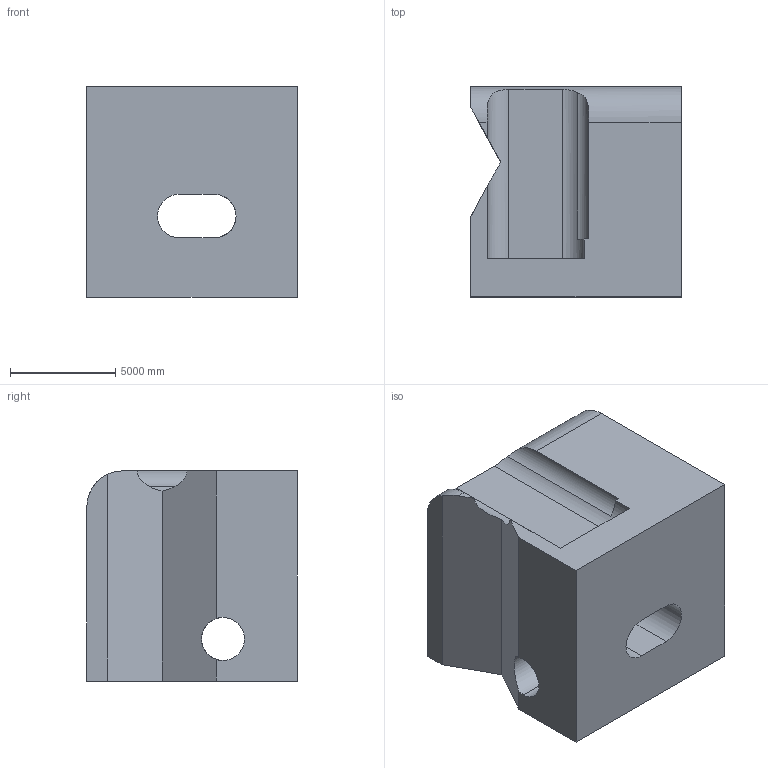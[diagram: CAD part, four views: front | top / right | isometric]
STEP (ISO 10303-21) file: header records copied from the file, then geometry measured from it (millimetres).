
FILE_DESCRIPTION (( 'STEP AP203' ), '1' );
FILE_NAME ('123.STEP', '2022-08-31T14:20:00', ( 'user' ), ( '' ), 'SwSTEP 2.0', 'SolidWorks 2021', '' );
FILE_SCHEMA (( 'CONFIG_CONTROL_DESIGN' ));
Length unit declared in the file: centimetre
Products named in the file (1): 123
Bounding box: 10000 x 10000 x 10000 mm (x, y, z)
Volume: 799085652406.5 mm3; surface area: 775354238.3 mm2
Topology: 1 solids, 1 shells, 32 faces, 99 edges, 66 vertices
Faces by surface type: plane 24, cylinder 8
Entity records: 1617 total; most frequent: CARTESIAN_POINT 662, ORIENTED_EDGE 198, DIRECTION 165, EDGE_CURVE 99, VECTOR 69, LINE 69, VERTEX_POINT 66, AXIS2_PLACEMENT_3D 48
